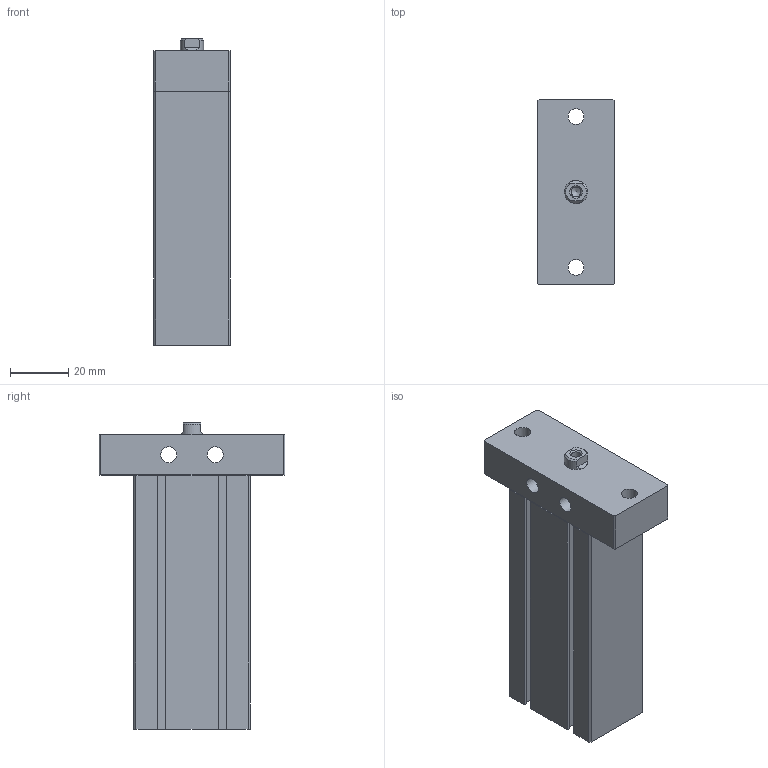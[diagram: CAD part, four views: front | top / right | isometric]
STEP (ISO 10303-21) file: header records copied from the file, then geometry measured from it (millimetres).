
FILE_DESCRIPTION((''),'2;1');
FILE_NAME('J:\3D電子目錄\氣缸\ND\ND\ND20-F\ND20x60-F.stp','2008-03-12T14:07:17',('66-2f-008'),(''),'Autodesk Inventor 11','Autodesk Inventor 11','');
FILE_SCHEMA(('AUTOMOTIVE_DESIGN { 1 0 10303 214 1 1 1 1 }'));
Length unit declared in the file: millimetre
Products named in the file (1): ND20-F
Bounding box: 26.4 x 64 x 105.5 mm (x, y, z)
Volume: 104639.2 mm3; surface area: 24558.8 mm2
Topology: 2 solids, 2 shells, 112 faces, 300 edges, 193 vertices
Faces by surface type: plane 75, bspline 16, cylinder 12, cone 8, torus 1
Full cylindrical faces by diameter (mm): 1.5 x2, 5.5 x2, 13 x1, 21 x1
Entity records: 3478 total; most frequent: CARTESIAN_POINT 793, ORIENTED_EDGE 538, DIRECTION 514, EDGE_CURVE 269, VECTOR 210, LINE 210, VERTEX_POINT 187, EDGE_LOOP 154
